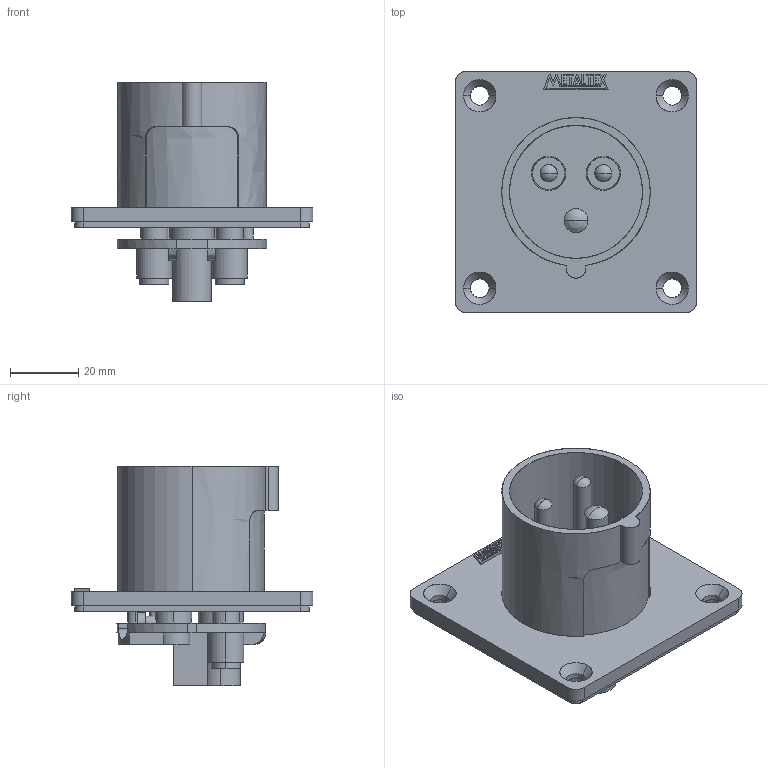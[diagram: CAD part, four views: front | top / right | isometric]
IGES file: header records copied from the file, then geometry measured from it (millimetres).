
Start section: SolidWorks IGES file using analytic representation for surfaces
Global section: file name: D:\X - Arquivos\PROEX\Empresas\P11 - METALTEX\01 - Produtos\IGES\4ª remessa\2ª etapa\TLL16432.IGS; native system: SolidWorks 2012; preprocessor: SolidWorks 2012; author: Usuario; date: 180405.175735; units: millimetre
Bounding box: 70.7 x 70.7 x 64.3 mm (x, y, z)
Surface area: 33668.9 mm2 (no closed solid volume)
Topology: 0 solids, 0 shells, 397 faces, 6059 edges, 6056 vertices
Faces by surface type: bspline 249, revolution 148
